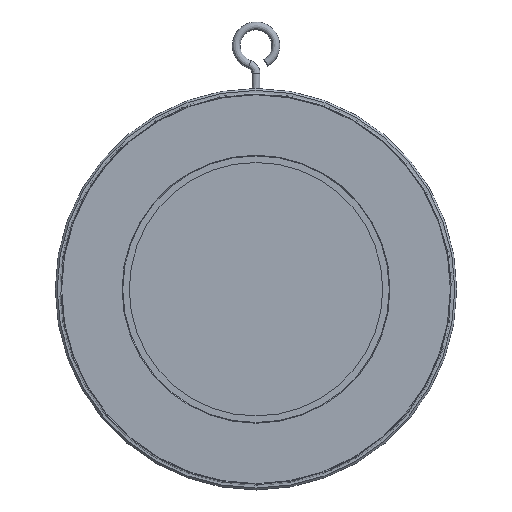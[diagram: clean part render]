
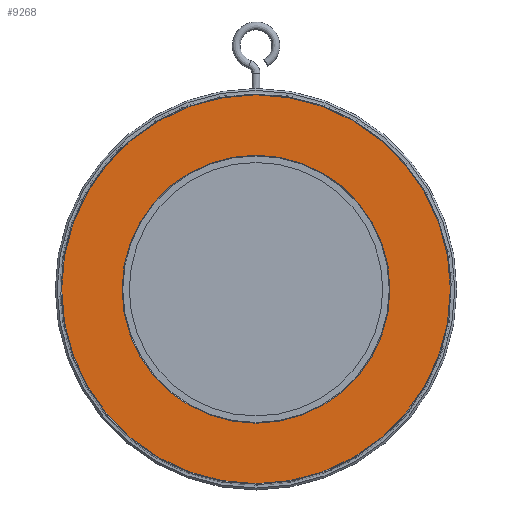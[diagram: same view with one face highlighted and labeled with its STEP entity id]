
A CAD part, left-side view. The second image highlights one B-rep face of the part: STEP entity #9268.
In plain terms, the highlighted planar face has unit normal (-1, 0, 0).
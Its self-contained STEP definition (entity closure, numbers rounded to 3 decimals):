
#118 = FACE_OUTER_BOUND ( 'NONE', #14296, .T. ) ;
#171 = CARTESIAN_POINT ( 'NONE',  ( -28., 0., 0. ) ) ;
#538 = CIRCLE ( 'NONE', #14267, 295.353 ) ;
#595 = CARTESIAN_POINT ( 'NONE',  ( -28., -295.353, 0. ) ) ;
#1003 = VERTEX_POINT ( 'NONE', #6598 ) ;
#1076 = CIRCLE ( 'NONE', #8365, 203.5 ) ;
#1330 = DIRECTION ( 'NONE',  ( 0., -1., 0. ) ) ;
#1454 = AXIS2_PLACEMENT_3D ( 'NONE', #9992, #6653, #12342 ) ;
#1993 = DIRECTION ( 'NONE',  ( 0., 0., -1. ) ) ;
#2185 = EDGE_CURVE ( 'NONE', #5170, #1003, #13713, .T. ) ;
#2240 = CIRCLE ( 'NONE', #12971, 203.5 ) ;
#2895 = ORIENTED_EDGE ( 'NONE', *, *, #6739, .F. ) ;
#3860 = DIRECTION ( 'NONE',  ( 1., 0., 0. ) ) ;
#4260 = CARTESIAN_POINT ( 'NONE',  ( -28., 0., 0. ) ) ;
#5170 = VERTEX_POINT ( 'NONE', #595 ) ;
#5908 = EDGE_CURVE ( 'NONE', #13286, #8374, #1076, .T. ) ;
#6598 = CARTESIAN_POINT ( 'NONE',  ( -28., 295.353, 0. ) ) ;
#6641 = CARTESIAN_POINT ( 'NONE',  ( -28., 0., 0. ) ) ;
#6653 = DIRECTION ( 'NONE',  ( 1., 0., 0. ) ) ;
#6739 = EDGE_CURVE ( 'NONE', #1003, #5170, #538, .T. ) ;
#6970 = ORIENTED_EDGE ( 'NONE', *, *, #5908, .T. ) ;
#7754 = PLANE ( 'NONE',  #12309 ) ;
#7799 = DIRECTION ( 'NONE',  ( 0., 0., 1. ) ) ;
#8260 = DIRECTION ( 'NONE',  ( 1., 0., 0. ) ) ;
#8365 = AXIS2_PLACEMENT_3D ( 'NONE', #6641, #14711, #7799 ) ;
#8374 = VERTEX_POINT ( 'NONE', #13913 ) ;
#8905 = DIRECTION ( 'NONE',  ( 1., 0., 0. ) ) ;
#9268 = ADVANCED_FACE ( 'NONE', ( #14759, #118 ), #7754, .F. ) ;
#9992 = CARTESIAN_POINT ( 'NONE',  ( -28., 0., 0. ) ) ;
#10784 = CARTESIAN_POINT ( 'NONE',  ( -28., 0., 0. ) ) ;
#11941 = DIRECTION ( 'NONE',  ( 0., 0., 1. ) ) ;
#11976 = ORIENTED_EDGE ( 'NONE', *, *, #2185, .F. ) ;
#12309 = AXIS2_PLACEMENT_3D ( 'NONE', #4260, #8905, #1993 ) ;
#12342 = DIRECTION ( 'NONE',  ( 0., -1., 0. ) ) ;
#12971 = AXIS2_PLACEMENT_3D ( 'NONE', #10784, #3860, #11941 ) ;
#13021 = EDGE_CURVE ( 'NONE', #8374, #13286, #2240, .T. ) ;
#13042 = EDGE_LOOP ( 'NONE', ( #6970, #13999 ) ) ;
#13286 = VERTEX_POINT ( 'NONE', #14318 ) ;
#13713 = CIRCLE ( 'NONE', #1454, 295.353 ) ;
#13913 = CARTESIAN_POINT ( 'NONE',  ( -28., 0., -203.5 ) ) ;
#13999 = ORIENTED_EDGE ( 'NONE', *, *, #13021, .T. ) ;
#14267 = AXIS2_PLACEMENT_3D ( 'NONE', #171, #8260, #1330 ) ;
#14296 = EDGE_LOOP ( 'NONE', ( #11976, #2895 ) ) ;
#14318 = CARTESIAN_POINT ( 'NONE',  ( -28., 0., 203.5 ) ) ;
#14711 = DIRECTION ( 'NONE',  ( 1., 0., 0. ) ) ;
#14759 = FACE_BOUND ( 'NONE', #13042, .T. ) ;
